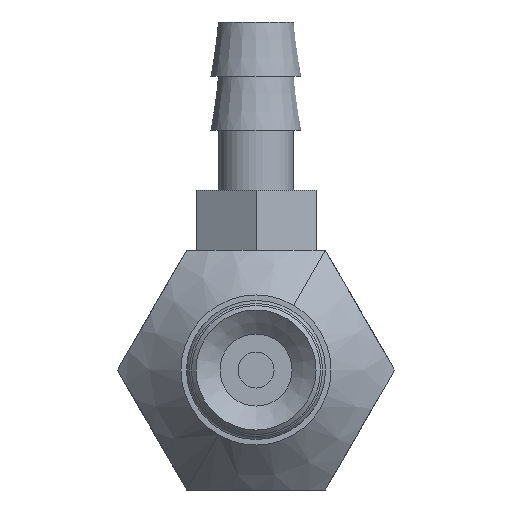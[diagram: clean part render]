
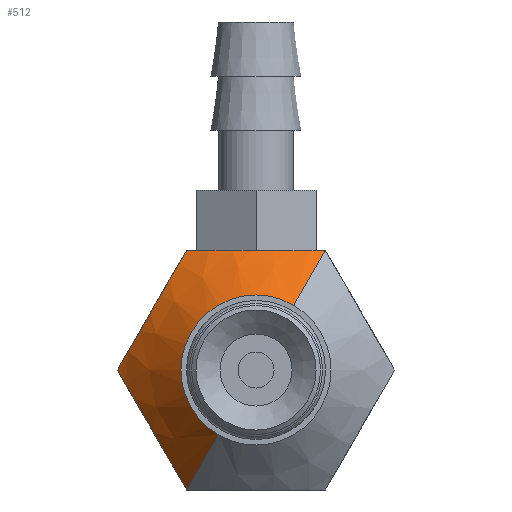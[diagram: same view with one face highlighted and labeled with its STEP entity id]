
A CAD part, front view. The second image highlights one B-rep face of the part: STEP entity #512.
In plain terms, the highlighted conical face has half-angle 45 degrees and reference radius 2.5 mm.
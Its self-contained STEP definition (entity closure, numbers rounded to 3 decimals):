
#512=ADVANCED_FACE('',(#721),#722,.T.);
#721=FACE_OUTER_BOUND('',#1055,.T.);
#722=CONICAL_SURFACE('',#1056,2.5,0.785);
#1055=EDGE_LOOP('',(#1681,#1682,#1683,#1684,#1685,#1686));
#1056=AXIS2_PLACEMENT_3D('',#1687,#1688,#1689);
#1681=ORIENTED_EDGE('',*,*,#2395,.F.);
#1682=ORIENTED_EDGE('',*,*,#2396,.T.);
#1683=ORIENTED_EDGE('',*,*,#2386,.F.);
#1684=ORIENTED_EDGE('',*,*,#2397,.F.);
#1685=ORIENTED_EDGE('',*,*,#2391,.F.);
#1686=ORIENTED_EDGE('',*,*,#2398,.F.);
#1687=CARTESIAN_POINT('',(0.0,0.,0.0));
#1688=DIRECTION('',(-0.0,1.0,0.0));
#1689=DIRECTION('',(0.866,0.0,-0.5));
#2386=EDGE_CURVE('',#2743,#2721,#2744,.T.);
#2391=EDGE_CURVE('',#2752,#2753,#2754,.T.);
#2395=EDGE_CURVE('',#2759,#2760,#2761,.T.);
#2396=EDGE_CURVE('',#2759,#2721,#2762,.T.);
#2397=EDGE_CURVE('',#2753,#2743,#2763,.T.);
#2398=EDGE_CURVE('',#2760,#2752,#2764,.T.);
#2721=VERTEX_POINT('',#3304);
#2743=VERTEX_POINT('',#3354);
#2744=B_SPLINE_CURVE_WITH_KNOTS('',3,(#3355,#3356,#3357,#3358,#3359,#3360,#3361,#3362,#3363,#3364,#3365,#3366),.UNSPECIFIED.,.F.,.F.,(4,2,2,2,2,4),(0.0,0.001,0.002,0.002,0.004,0.005),.UNSPECIFIED.);
#2752=VERTEX_POINT('',#3381);
#2753=VERTEX_POINT('',#3382);
#2754=B_SPLINE_CURVE_WITH_KNOTS('',3,(#3383,#3384,#3385,#3386,#3387,#3388,#3389,#3390,#3391,#3392,#3393,#3394),.UNSPECIFIED.,.F.,.F.,(4,2,2,2,2,4),(0.0,0.001,0.002,0.002,0.004,0.005),.UNSPECIFIED.);
#2759=VERTEX_POINT('',#3404);
#2760=VERTEX_POINT('',#3405);
#2761=CIRCLE('',#3406,2.5);
#2762=LINE('',#3407,#3408);
#2763=B_SPLINE_CURVE_WITH_KNOTS('',3,(#3409,#3410,#3411,#3412,#3413,#3414,#3415,#3416,#3417,#3418,#3419,#3420),.UNSPECIFIED.,.F.,.F.,(4,2,2,2,2,4),(0.,0.001,0.002,0.002,0.004,0.005),.UNSPECIFIED.);
#2764=LINE('',#3421,#3422);
#3304=CARTESIAN_POINT('',(2.309,2.119,4.0));
#3354=CARTESIAN_POINT('',(-2.309,2.119,4.0));
#3355=CARTESIAN_POINT('',(-2.309,2.119,4.0));
#3356=CARTESIAN_POINT('',(-1.949,1.938,4.0));
#3357=CARTESIAN_POINT('',(-1.58,1.785,4.0));
#3358=CARTESIAN_POINT('',(-1.006,1.621,4.0));
#3359=CARTESIAN_POINT('',(-0.812,1.577,4.0));
#3360=CARTESIAN_POINT('',(-0.415,1.517,4.0));
#3361=CARTESIAN_POINT('',(-0.21,1.5,4.0));
#3362=CARTESIAN_POINT('',(0.395,1.499,4.0));
#3363=CARTESIAN_POINT('',(0.791,1.56,4.0));
#3364=CARTESIAN_POINT('',(1.573,1.782,4.0));
#3365=CARTESIAN_POINT('',(1.946,1.937,4.0));
#3366=CARTESIAN_POINT('',(2.309,2.119,4.0));
#3381=CARTESIAN_POINT('',(-2.309,2.119,-4.0));
#3382=CARTESIAN_POINT('',(-4.619,2.119,0.));
#3383=CARTESIAN_POINT('',(-2.309,2.119,-4.0));
#3384=CARTESIAN_POINT('',(-2.49,1.938,-3.687));
#3385=CARTESIAN_POINT('',(-2.674,1.785,-3.368));
#3386=CARTESIAN_POINT('',(-2.961,1.621,-2.871));
#3387=CARTESIAN_POINT('',(-3.058,1.577,-2.703));
#3388=CARTESIAN_POINT('',(-3.257,1.517,-2.359));
#3389=CARTESIAN_POINT('',(-3.359,1.5,-2.182));
#3390=CARTESIAN_POINT('',(-3.661,1.499,-1.658));
#3391=CARTESIAN_POINT('',(-3.86,1.56,-1.315));
#3392=CARTESIAN_POINT('',(-4.25,1.782,-0.638));
#3393=CARTESIAN_POINT('',(-4.437,1.937,-0.314));
#3394=CARTESIAN_POINT('',(-4.619,2.119,0.));
#3404=CARTESIAN_POINT('',(1.25,0.,2.165));
#3405=CARTESIAN_POINT('',(-1.25,0.,-2.165));
#3406=AXIS2_PLACEMENT_3D('',#3986,#3987,#3988);
#3407=CARTESIAN_POINT('',(1.78,1.059,3.083));
#3408=VECTOR('',#3989,1.0);
#3409=CARTESIAN_POINT('',(-4.619,2.119,0.0));
#3410=CARTESIAN_POINT('',(-4.438,1.938,0.313));
#3411=CARTESIAN_POINT('',(-4.254,1.785,0.632));
#3412=CARTESIAN_POINT('',(-3.967,1.621,1.129));
#3413=CARTESIAN_POINT('',(-3.87,1.577,1.297));
#3414=CARTESIAN_POINT('',(-3.671,1.517,1.641));
#3415=CARTESIAN_POINT('',(-3.569,1.5,1.818));
#3416=CARTESIAN_POINT('',(-3.267,1.499,2.342));
#3417=CARTESIAN_POINT('',(-3.069,1.56,2.685));
#3418=CARTESIAN_POINT('',(-2.678,1.782,3.362));
#3419=CARTESIAN_POINT('',(-2.491,1.937,3.686));
#3420=CARTESIAN_POINT('',(-2.309,2.119,4.0));
#3421=CARTESIAN_POINT('',(-1.78,1.059,-3.083));
#3422=VECTOR('',#3990,1.0);
#3986=CARTESIAN_POINT('',(0.0,0.,0.0));
#3987=DIRECTION('',(0.0,-1.0,0.0));
#3988=DIRECTION('',(0.0,0.0,-1.0));
#3989=DIRECTION('',(0.354,0.707,0.612));
#3990=DIRECTION('',(-0.354,0.707,-0.612));
